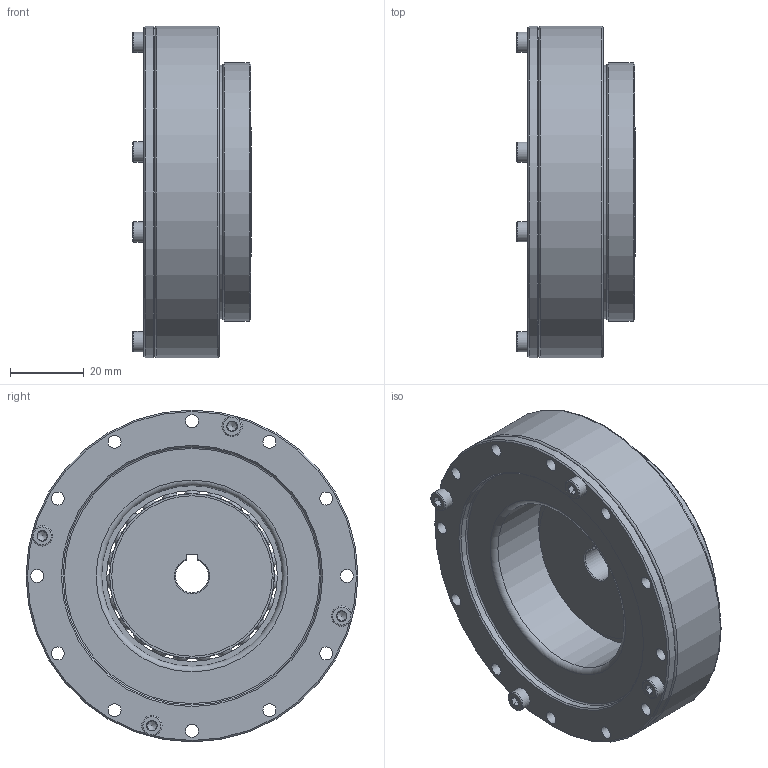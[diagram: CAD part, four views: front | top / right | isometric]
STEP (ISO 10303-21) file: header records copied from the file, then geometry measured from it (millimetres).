
FILE_DESCRIPTION(/* description */ (''),/* implementation_level */ '2;1');
FILE_NAME(/* name */ 'Getriebeset_HTG_Plus_BG51_FK.stp',/* time_stamp */ '2026-03-10T08:45:03+01:00',/* author */ (''),/* organization */ (''),/* preprocessor_version */ 'ST-DEVELOPER v19.4',/* originating_system */ 'SIEMENS PLM Software NX2212.9120',/* authorisation */ '');
FILE_SCHEMA (('AUTOMOTIVE_DESIGN { 1 0 10303 214 3 1 1 1 }'));
Length unit declared in the file: millimetre
Products named in the file (1): Getriebeset_HTG_Plus_BG51_FK
Bounding box: 32.23 x 90 x 90 mm (x, y, z)
Volume: 108985.1 mm3; surface area: 83124.9 mm2
Topology: 44 solids, 44 shells, 586 faces, 1526 edges, 1007 vertices
Faces by surface type: cylinder 170, plane 161, cone 146, torus 71, sphere 35, bspline 3
Full cylindrical faces by diameter (mm): 2.6 x24, 3 x8, 3.4 x4, 3.5 x44, 5.5 x8, 6.5 x4, 13.5 x1, 31 x1, 33.88 x1, 35 x3, 38.5 x3, 43.5 x1, 46.3 x2, 49 x2, 49.9 x1, 50.5 x1, 51.2 x1, 51.3 x1, 54 x2, 54.1 x1, 57.2 x1, 60.8 x1, 68.8 x3, 70 x2, 70.2 x2, 72.6 x1, 78 x3, 78.9 x1, 90 x2
Entity records: 19189 total; most frequent: CARTESIAN_POINT 6739, DIRECTION 2447, ORIENTED_EDGE 2054, AXIS2_PLACEMENT_3D 1152, EDGE_CURVE 1027, EDGE_LOOP 933, VERTEX_POINT 817, FACE_BOUND 713
